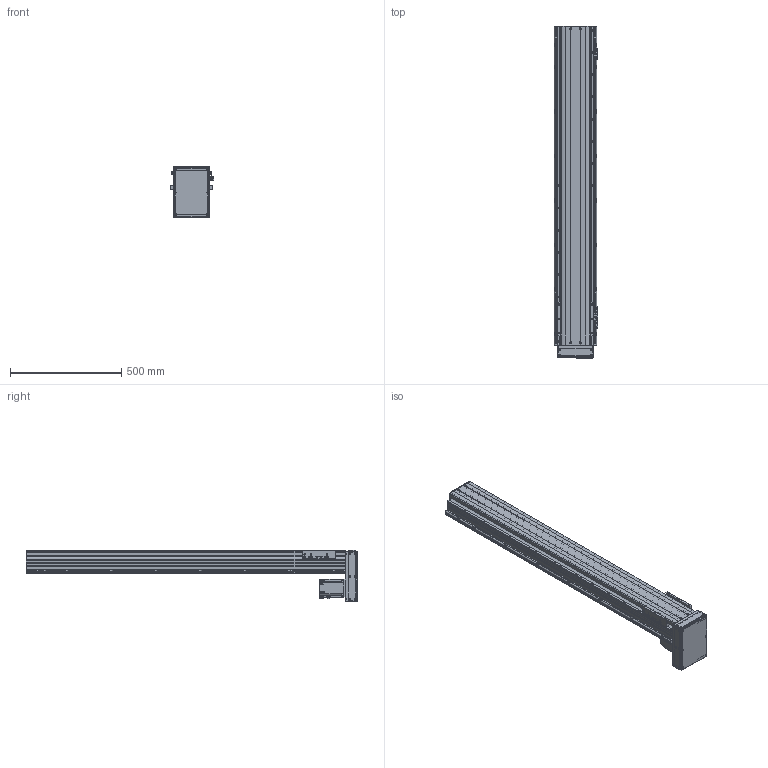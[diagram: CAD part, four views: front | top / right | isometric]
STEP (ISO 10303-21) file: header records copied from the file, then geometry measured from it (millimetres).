
FILE_DESCRIPTION(/* description */ ('MANUFACTURE','CAx-IF Rec.Pracs.---Representation and Presentation of Product Manufacturing Information (PMI)---4.0---2014-10-13'),/* implementation_level */ '2;1');
FILE_NAME(/* name */ '\\192.168.0.160\disk1\HAN SHIN Master\B-설계부문\C-표준\B-2024년\BC02-표준도면\+로봇 개선표준도면\표준 승인도 폴더 - 재작업\3D\HS Type\HS160\D-Type\HS160-D70-N-1200-R10.stp',/* time_stamp */ '2024-08-28T13:23:56+09:00',/* author */ ('user'),/* organization */ (''),/* preprocessor_version */ 'ST-DEVELOPER v18.1',/* originating_system */ 'Autodesk Inventor 2022',/* authorisation */ 'LIP');
FILE_SCHEMA (('AP242_MANAGED_MODEL_BASED_3D_ENGINEERING_MIM_LF { 1 0 10303 442 1 1 4 }'));
Products named in the file (30): HS160 D 70-N-0500-R10 - 간소화; HS160 LR BASE (400W-20Pi); 6004ZZ; 6004ZZ Outer ring; 6004ZZ Shield1; 6004ZZ Inner ring; 6004ZZ Ball; 6004ZZ Shield2; UPCOVER; HR180 FRONT BLOCK; HR180 FRONT BLOCK_1; REAR COVER; STOPPER104; HR120 SENSOR DOG; TABLE; LMKE2020 NUT; NUT HOLDER; hsr_ftht_A-M6F_grease_nipple_joint; NIPPLE CAP(신규); hg-kr73_; 750W MOTOR PLATE; 화살표; SENSOR BRK(EE-SX674A); EE_SX674A; HS160 D MOTOR PLATE; HG160DACRYLCOVER001; HG160DACRYLCOVER003; HG160 D BELT COVER; HG160ACRYLCOVER002; SIDE COVER
Assembly tree (57 placements, depth 3):
  HS160 D 70-N-0500-R10 - 간소화
    HS160 LR BASE (400W-20Pi)
    6004ZZ
      6004ZZ Outer ring
      6004ZZ Shield1
      6004ZZ Inner ring
      6004ZZ Ball  x13
      6004ZZ Shield2
    UPCOVER
    SIDE COVER  x2
    HR180 FRONT BLOCK
    HR180 FRONT BLOCK_1
    REAR COVER
    STOPPER104  x2
    HR120 SENSOR DOG
    SENSOR BRK(EE-SX674A)  x3
    EE_SX674A  x3
    TABLE
    LMKE2020 NUT
    NUT HOLDER
    hsr_ftht_A-M6F_grease_nipple_joint  x5
    NIPPLE CAP(신규)  x5
    화살표  x2
    hg-kr73_
    750W MOTOR PLATE
    HS160 D MOTOR PLATE
    HG160DACRYLCOVER001
    HG160ACRYLCOVER002  x2
    HG160DACRYLCOVER003
    HG160 D BELT COVER
Bounding box: 193.5 x 1492 x 232 mm (x, y, z)
Volume: 9621339.7 mm3; surface area: 2434377.8 mm2
Topology: 56 solids, 56 shells, 2605 faces, 7207 edges, 4686 vertices
Faces by surface type: plane 1194, cylinder 967, cone 331, sphere 57, torus 36, bspline 20
Full cylindrical faces by diameter (mm): 2.459 x40, 3 x32, 3.2 x2, 3.242 x48, 3.4 x22, 3.5 x6, 4.134 x28, 4.2 x8, 4.5 x36, 4.917 x57, 5 x30, 5.5 x25, 5.6 x5, 5.9 x4, 6 x19, 6.5 x16, 6.6 x18, 7 x4, 7.6 x4, 8.376 x16, 9 x6, 9.5 x29, 11 x14, 19 x1, 20 x2, 25 x1, 25.7 x4, 27 x2, 29.5 x1, 30 x1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
Entity records: 74439 total; most frequent: CARTESIAN_POINT 15264, DIRECTION 11892, ORIENTED_EDGE 10730, EDGE_CURVE 5365, AXIS2_PLACEMENT_3D 4457, VERTEX_POINT 3568, LINE 2978, VECTOR 2978
